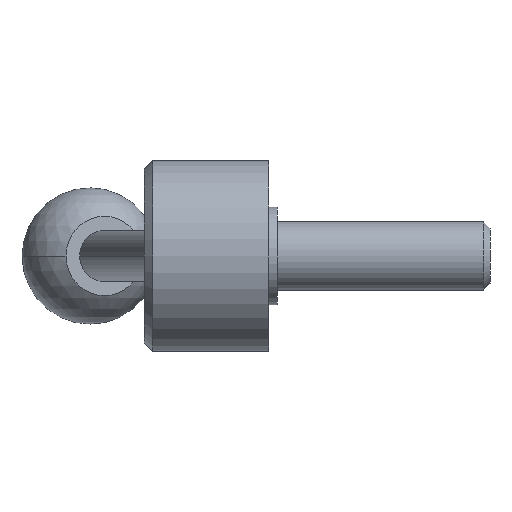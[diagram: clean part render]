
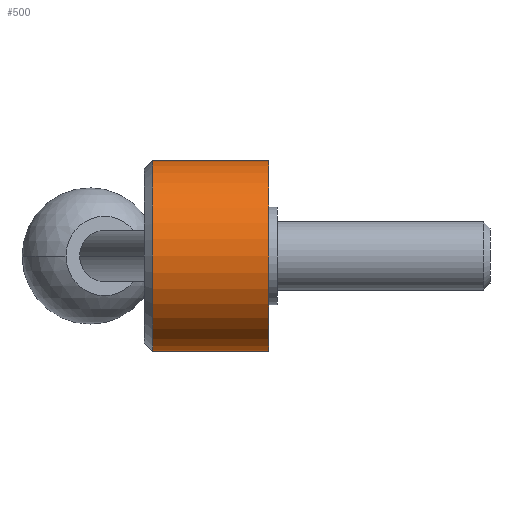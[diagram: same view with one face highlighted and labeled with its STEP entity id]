
A CAD part, left-side view. The second image highlights one B-rep face of the part: STEP entity #500.
In plain terms, the highlighted cylindrical face has radius 22.5 mm (diameter 45 mm), a partial arc.
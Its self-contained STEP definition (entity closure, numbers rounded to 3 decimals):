
#34 = ORIENTED_EDGE ( 'NONE', *, *, #204, .T. ) ;
#70 = VERTEX_POINT ( 'NONE', #698 ) ;
#91 = AXIS2_PLACEMENT_3D ( 'NONE', #574, #494, #761 ) ;
#124 = CYLINDRICAL_SURFACE ( 'NONE', #483, 22.5 ) ;
#134 = VERTEX_POINT ( 'NONE', #603 ) ;
#184 = CARTESIAN_POINT ( 'NONE',  ( 0., 27.3, 0. ) ) ;
#189 = AXIS2_PLACEMENT_3D ( 'NONE', #184, #345, #802 ) ;
#197 = VERTEX_POINT ( 'NONE', #683 ) ;
#203 = FACE_OUTER_BOUND ( 'NONE', #206, .T. ) ;
#204 = EDGE_CURVE ( 'NONE', #134, #70, #760, .T. ) ;
#206 = EDGE_LOOP ( 'NONE', ( #404, #34, #658, #688 ) ) ;
#208 = DIRECTION ( 'NONE',  ( 0., -1., 0. ) ) ;
#267 = CARTESIAN_POINT ( 'NONE',  ( 0., 0., 22.5 ) ) ;
#271 = DIRECTION ( 'NONE',  ( 0., 0., -1. ) ) ;
#293 = VECTOR ( 'NONE', #659, 1000. ) ;
#314 = LINE ( 'NONE', #523, #293 ) ;
#345 = DIRECTION ( 'NONE',  ( 0., -1., 0. ) ) ;
#348 = DIRECTION ( 'NONE',  ( 0., -1., 0. ) ) ;
#380 = VECTOR ( 'NONE', #208, 1000. ) ;
#404 = ORIENTED_EDGE ( 'NONE', *, *, #678, .F. ) ;
#483 = AXIS2_PLACEMENT_3D ( 'NONE', #686, #348, #271 ) ;
#494 = DIRECTION ( 'NONE',  ( 0., -1., 0. ) ) ;
#500 = ADVANCED_FACE ( 'NONE', ( #203 ), #124, .T. ) ;
#523 = CARTESIAN_POINT ( 'NONE',  ( 0., 0., 22.5 ) ) ;
#574 = CARTESIAN_POINT ( 'NONE',  ( 0., 0., 0. ) ) ;
#603 = CARTESIAN_POINT ( 'NONE',  ( 0., 27.3, 22.5 ) ) ;
#658 = ORIENTED_EDGE ( 'NONE', *, *, #865, .T. ) ;
#659 = DIRECTION ( 'NONE',  ( 0., -1., 0. ) ) ;
#678 = EDGE_CURVE ( 'NONE', #134, #737, #314, .T. ) ;
#683 = CARTESIAN_POINT ( 'NONE',  ( 0., 0., -22.5 ) ) ;
#686 = CARTESIAN_POINT ( 'NONE',  ( 0., 0., 0. ) ) ;
#688 = ORIENTED_EDGE ( 'NONE', *, *, #703, .F. ) ;
#698 = CARTESIAN_POINT ( 'NONE',  ( 0., 27.3, -22.5 ) ) ;
#703 = EDGE_CURVE ( 'NONE', #737, #197, #835, .T. ) ;
#737 = VERTEX_POINT ( 'NONE', #267 ) ;
#760 = CIRCLE ( 'NONE', #189, 22.5 ) ;
#761 = DIRECTION ( 'NONE',  ( 0., 0., -1. ) ) ;
#769 = LINE ( 'NONE', #824, #380 ) ;
#802 = DIRECTION ( 'NONE',  ( 0., 0., 1. ) ) ;
#824 = CARTESIAN_POINT ( 'NONE',  ( 0., 0., -22.5 ) ) ;
#835 = CIRCLE ( 'NONE', #91, 22.5 ) ;
#865 = EDGE_CURVE ( 'NONE', #70, #197, #769, .T. ) ;
